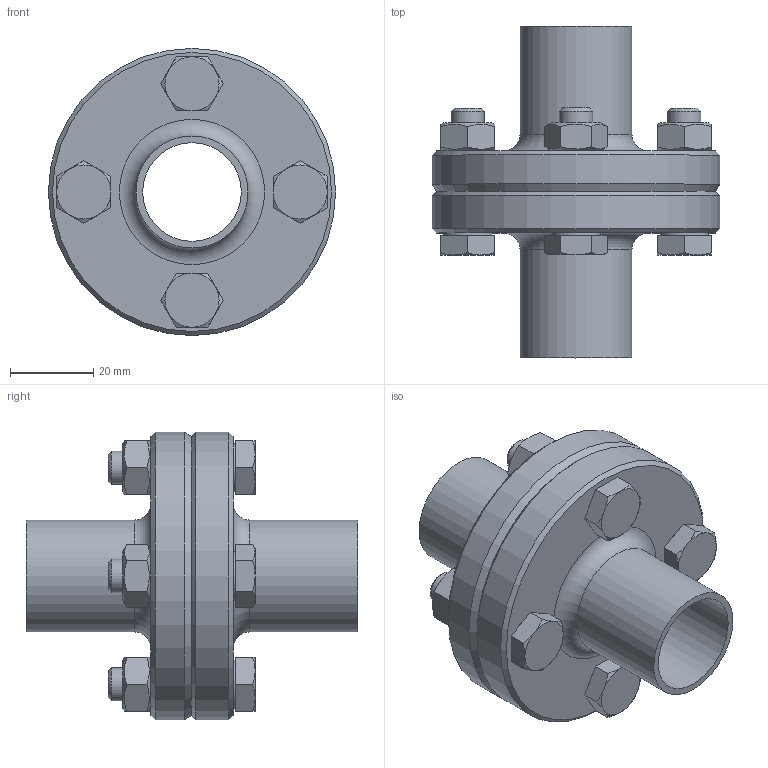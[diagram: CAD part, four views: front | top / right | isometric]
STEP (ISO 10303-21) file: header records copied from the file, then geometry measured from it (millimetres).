
FILE_DESCRIPTION(/* description */ ('DIN11864-2-A_26,9x1,6_L80_Fl69'),/* implementation_level */ '2;1');
FILE_NAME(/* name */ 'DIN11864-2-A_26,9x1,6_L80_Fl69.stp',/* time_stamp */ '2015-01-07T13:14:35+01:00',/* author */ ('DOCKWEILER AG'),/* organization */ ('DOCKWEILER AG'),/* preprocessor_version */ 'ST-DEVELOPER v15.6',/* originating_system */ 'Autodesk Inventor 2015',/* authorisation */ '');
FILE_SCHEMA (('CONFIG_CONTROL_DESIGN'));
Length unit declared in the file: millimetre
Products named in the file (6): N0003_007_003_16; N0003_007_004_16; N005_005_002_001_15; ISO 4032 - M8ISO; ISO 4017 - M8 x 30ISO; N0024_002_002
Assembly tree (11 placements, depth 2):
  N0024_002_002
    N0003_007_003_16
    N0003_007_004_16
    N005_005_002_001_15
    ISO 4032 - M8ISO  x4
    ISO 4017 - M8 x 30ISO  x4
Bounding box: 69 x 79.7 x 69 mm (x, y, z)
Volume: 79723.2 mm3; surface area: 37820.9 mm2
Topology: 11 solids, 11 shells, 174 faces, 362 edges, 222 vertices
Faces by surface type: plane 82, cone 52, cylinder 28, torus 12
Full cylindrical faces by diameter (mm): 6.647 x4, 8 x4, 9 x8, 11.63 x4, 23.7 x2, 26.9 x2, 36 x1, 36.1 x1, 69 x2
Entity records: 2080 total; most frequent: DIRECTION 352, CARTESIAN_POINT 352, ORIENTED_EDGE 228, AXIS2_PLACEMENT_3D 167, EDGE_LOOP 151, EDGE_CURVE 114, VERTEX_POINT 95, FACE_OUTER_BOUND 78
